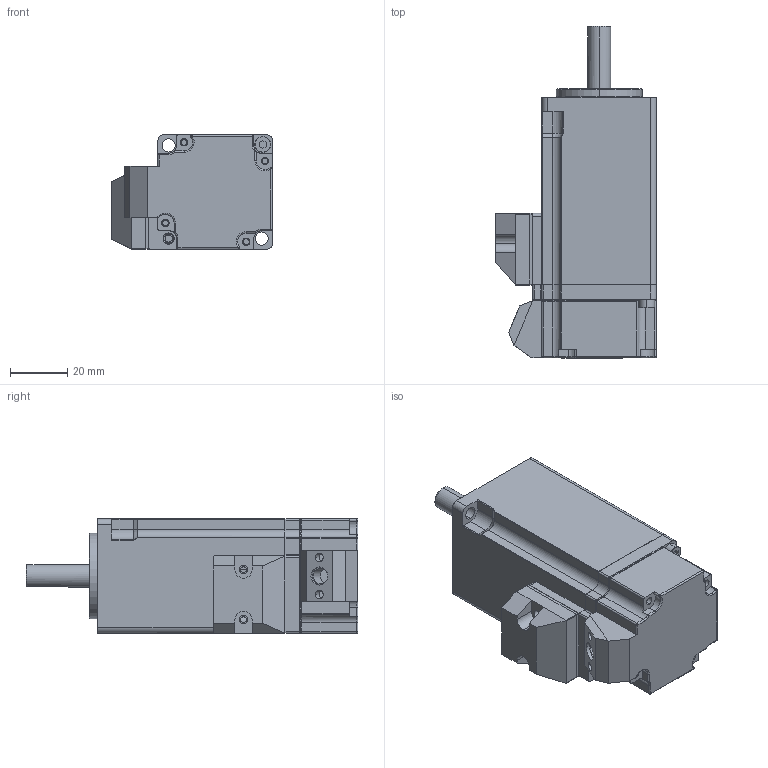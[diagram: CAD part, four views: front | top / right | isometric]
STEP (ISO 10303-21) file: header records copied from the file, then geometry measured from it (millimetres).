
FILE_DESCRIPTION (( 'STEP AP203' ), '1' );
FILE_NAME ('MS6H-40-CS(M)30B1-20P1萇儂菴媼唳.STEP', '2020-09-09T07:53:16', ( '' ), ( '' ), 'SwSTEP 2.0', 'SolidWorks 2016', '' );
FILE_SCHEMA (( 'CONFIG_CONTROL_DESIGN' ));
Length unit declared in the file: millimetre
Products named in the file (1): MS6H-40-CS(M)30B1-20P1萇儂菴媼唳
Bounding box: 56.2 x 116 x 40 mm (x, y, z)
Surface area: 25760.2 mm2 (no closed solid volume)
Topology: 0 solids, 127 shells, 658 faces, 2021 edges, 1460 vertices
Faces by surface type: cylinder 329, plane 281, torus 17, cone 14, bspline 9, sphere 8
Entity records: 23135 total; most frequent: CARTESIAN_POINT 4982, DIRECTION 4115, ORIENTED_EDGE 3011, EDGE_CURVE 2012, AXIS2_PLACEMENT_3D 1498, VERTEX_POINT 1458, LINE 1119, VECTOR 1119
